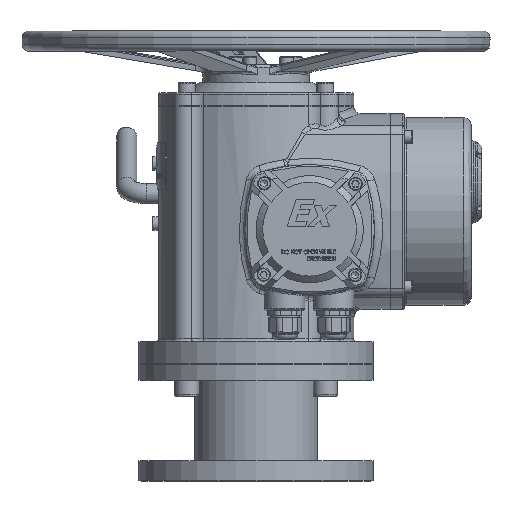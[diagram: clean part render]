
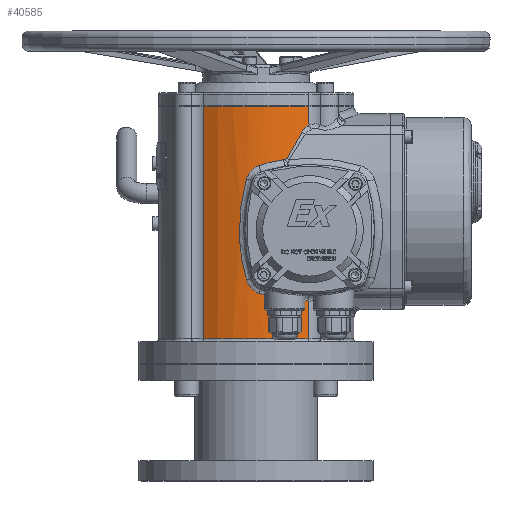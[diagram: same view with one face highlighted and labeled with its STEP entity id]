
A CAD part, top view. The second image highlights one B-rep face of the part: STEP entity #40585.
In plain terms, the highlighted cylindrical face has radius 73 mm (diameter 146 mm), a partial arc.
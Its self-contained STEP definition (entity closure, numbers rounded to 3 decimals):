
#815=B_SPLINE_CURVE_WITH_KNOTS('',3,(#62793,#62794,#62795,#62796,#62797),
 .UNSPECIFIED.,.F.,.F.,(4,1,4),(-4.223,-2.413,0.),
 .UNSPECIFIED.);
#816=B_SPLINE_CURVE_WITH_KNOTS('',3,(#62799,#62800,#62801,#62802,#62803),
 .UNSPECIFIED.,.F.,.F.,(4,1,4),(0.,0.615,1.436),
 .UNSPECIFIED.);
#817=B_SPLINE_CURVE_WITH_KNOTS('',3,(#62805,#62806,#62807,#62808,#62809,
#62810,#62811),.UNSPECIFIED.,.F.,.F.,(4,1,1,1,4),(-7.676,-5.483,
-3.29,-1.097,0.),
 .UNSPECIFIED.);
#818=B_SPLINE_CURVE_WITH_KNOTS('',3,(#62813,#62814,#62815,#62816,#62817),
 .UNSPECIFIED.,.F.,.F.,(4,1,4),(0.,0.615,1.436),
 .UNSPECIFIED.);
#819=B_SPLINE_CURVE_WITH_KNOTS('',3,(#62819,#62820,#62821,#62822),
 .UNSPECIFIED.,.F.,.F.,(4,4),(-2.043,0.),.UNSPECIFIED.);
#820=B_SPLINE_CURVE_WITH_KNOTS('',3,(#62824,#62825,#62826,#62827,#62828),
 .UNSPECIFIED.,.F.,.F.,(4,1,4),(-0.185,-0.092,0.),
 .UNSPECIFIED.);
#821=B_SPLINE_CURVE_WITH_KNOTS('',3,(#62830,#62831,#62832,#62833,#62834,
#62835),.UNSPECIFIED.,.F.,.F.,(4,1,1,4),(-0.141,-0.101,
-0.061,0.),.UNSPECIFIED.);
#822=B_SPLINE_CURVE_WITH_KNOTS('',3,(#62837,#62838,#62839,#62840),
 .UNSPECIFIED.,.F.,.F.,(4,4),(-2.338,0.),.UNSPECIFIED.);
#823=B_SPLINE_CURVE_WITH_KNOTS('',3,(#62842,#62843,#62844,#62845,#62846),
 .UNSPECIFIED.,.F.,.F.,(4,1,4),(-0.784,-0.336,0.),
 .UNSPECIFIED.);
#4641=FACE_OUTER_BOUND('',#6994,.T.);
#6994=EDGE_LOOP('',(#28944,#28945,#28946,#28947,#28948,#28949,#28950,#28951,
#28952,#28953,#28954,#28955,#28956,#28957));
#9426=LINE('',#62787,#12133);
#9427=LINE('',#62791,#12134);
#9428=LINE('',#62848,#12135);
#12133=VECTOR('',#48952,10.);
#12134=VECTOR('',#48957,10.);
#12135=VECTOR('',#48958,10.);
#14761=CIRCLE('',#43493,73.);
#14806=CIRCLE('',#43557,73.);
#16827=VERTEX_POINT('',#62636);
#16829=VERTEX_POINT('',#62642);
#16870=VERTEX_POINT('',#62786);
#16871=VERTEX_POINT('',#62790);
#16872=VERTEX_POINT('',#62792);
#16873=VERTEX_POINT('',#62798);
#16874=VERTEX_POINT('',#62804);
#16875=VERTEX_POINT('',#62812);
#16876=VERTEX_POINT('',#62818);
#16877=VERTEX_POINT('',#62823);
#16878=VERTEX_POINT('',#62829);
#16879=VERTEX_POINT('',#62836);
#16880=VERTEX_POINT('',#62841);
#16881=VERTEX_POINT('',#62847);
#21307=EDGE_CURVE('',#16827,#16829,#14761,.T.);
#21365=EDGE_CURVE('',#16829,#16870,#9426,.T.);
#21367=EDGE_CURVE('',#16827,#16871,#9427,.T.);
#21368=EDGE_CURVE('',#16872,#16871,#815,.T.);
#21369=EDGE_CURVE('',#16873,#16872,#816,.T.);
#21370=EDGE_CURVE('',#16874,#16873,#817,.T.);
#21371=EDGE_CURVE('',#16875,#16874,#818,.T.);
#21372=EDGE_CURVE('',#16876,#16875,#819,.T.);
#21373=EDGE_CURVE('',#16877,#16876,#820,.T.);
#21374=EDGE_CURVE('',#16878,#16877,#821,.T.);
#21375=EDGE_CURVE('',#16879,#16878,#822,.T.);
#21376=EDGE_CURVE('',#16880,#16879,#823,.T.);
#21377=EDGE_CURVE('',#16880,#16881,#9428,.T.);
#21378=EDGE_CURVE('',#16870,#16881,#14806,.T.);
#28944=ORIENTED_EDGE('',*,*,#21307,.F.);
#28945=ORIENTED_EDGE('',*,*,#21367,.T.);
#28946=ORIENTED_EDGE('',*,*,#21368,.F.);
#28947=ORIENTED_EDGE('',*,*,#21369,.F.);
#28948=ORIENTED_EDGE('',*,*,#21370,.F.);
#28949=ORIENTED_EDGE('',*,*,#21371,.F.);
#28950=ORIENTED_EDGE('',*,*,#21372,.F.);
#28951=ORIENTED_EDGE('',*,*,#21373,.F.);
#28952=ORIENTED_EDGE('',*,*,#21374,.F.);
#28953=ORIENTED_EDGE('',*,*,#21375,.F.);
#28954=ORIENTED_EDGE('',*,*,#21376,.F.);
#28955=ORIENTED_EDGE('',*,*,#21377,.T.);
#28956=ORIENTED_EDGE('',*,*,#21378,.F.);
#28957=ORIENTED_EDGE('',*,*,#21365,.F.);
#37440=CYLINDRICAL_SURFACE('',#43556,73.);
#40585=ADVANCED_FACE('',(#4641),#37440,.T.);
#43493=AXIS2_PLACEMENT_3D('',#62646,#48819,#48820);
#43556=AXIS2_PLACEMENT_3D('',#62789,#48955,#48956);
#43557=AXIS2_PLACEMENT_3D('',#62849,#48959,#48960);
#48819=DIRECTION('center_axis',(0.,-1.,0.));
#48820=DIRECTION('ref_axis',(0.,0.,
1.));
#48952=DIRECTION('',(0.,1.,0.));
#48955=DIRECTION('center_axis',(0.,1.,0.));
#48956=DIRECTION('ref_axis',(0.,0.,
1.));
#48957=DIRECTION('',(0.,1.,0.));
#48958=DIRECTION('',(0.,1.,0.));
#48959=DIRECTION('center_axis',(0.,1.,0.));
#48960=DIRECTION('ref_axis',(0.,0.,
-1.));
#62636=CARTESIAN_POINT('',(38.926,-95.05,61.756));
#62642=CARTESIAN_POINT('',(-38.926,-95.05,61.756));
#62646=CARTESIAN_POINT('Origin',(0.,-95.05,
0.));
#62786=CARTESIAN_POINT('',(-38.926,78.45,61.756));
#62787=CARTESIAN_POINT('',(-38.926,-79.05,61.756));
#62789=CARTESIAN_POINT('Origin',(0.,-79.05,
0.));
#62790=CARTESIAN_POINT('',(38.926,-66.921,61.756));
#62791=CARTESIAN_POINT('',(38.926,-79.05,61.756));
#62792=CARTESIAN_POINT('',(2.086,-61.088,72.97));
#62793=CARTESIAN_POINT('Ctrl Pts',(2.086,-61.088,72.97));
#62794=CARTESIAN_POINT('Ctrl Pts',(7.466,-62.91,72.816));
#62795=CARTESIAN_POINT('Ctrl Pts',(20.288,-66.167,71.048));
#62796=CARTESIAN_POINT('Ctrl Pts',(32.558,-67.007,65.77));
#62797=CARTESIAN_POINT('Ctrl Pts',(38.926,-66.921,61.756));
#62798=CARTESIAN_POINT('',(-7.054,-51.321,72.658));
#62799=CARTESIAN_POINT('Ctrl Pts',(-7.054,-51.321,
72.658));
#62800=CARTESIAN_POINT('Ctrl Pts',(-6.475,-53.276,
72.715));
#62801=CARTESIAN_POINT('Ctrl Pts',(-4.238,-57.535,
72.923));
#62802=CARTESIAN_POINT('Ctrl Pts',(-0.353,-60.261,
73.04));
#62803=CARTESIAN_POINT('Ctrl Pts',(2.086,-61.088,72.97));
#62804=CARTESIAN_POINT('',(-7.054,24.222,72.658));
#62805=CARTESIAN_POINT('Ctrl Pts',(-7.054,24.222,72.658));
#62806=CARTESIAN_POINT('Ctrl Pts',(-9.121,17.256,72.458));
#62807=CARTESIAN_POINT('Ctrl Pts',(-12.108,2.937,72.001));
#62808=CARTESIAN_POINT('Ctrl Pts',(-13.012,-19.06,
71.827));
#62809=CARTESIAN_POINT('Ctrl Pts',(-10.759,-37.246,72.23));
#62810=CARTESIAN_POINT('Ctrl Pts',(-8.088,-47.838,
72.558));
#62811=CARTESIAN_POINT('Ctrl Pts',(-7.054,-51.321,72.658));
#62812=CARTESIAN_POINT('',(2.086,33.988,72.97));
#62813=CARTESIAN_POINT('Ctrl Pts',(2.086,33.988,72.97));
#62814=CARTESIAN_POINT('Ctrl Pts',(0.256,33.368,73.022));
#62815=CARTESIAN_POINT('Ctrl Pts',(-3.735,30.973,72.967));
#62816=CARTESIAN_POINT('Ctrl Pts',(-6.281,26.828,72.733));
#62817=CARTESIAN_POINT('Ctrl Pts',(-7.054,24.222,72.658));
#62818=CARTESIAN_POINT('',(20.438,38.505,70.081));
#62819=CARTESIAN_POINT('Ctrl Pts',(20.438,38.505,70.081));
#62820=CARTESIAN_POINT('Ctrl Pts',(14.378,37.554,71.848));
#62821=CARTESIAN_POINT('Ctrl Pts',(8.16,36.045,72.797));
#62822=CARTESIAN_POINT('Ctrl Pts',(2.086,33.988,72.97));
#62823=CARTESIAN_POINT('',(22.035,38.978,69.595));
#62824=CARTESIAN_POINT('Ctrl Pts',(22.035,38.978,69.595));
#62825=CARTESIAN_POINT('Ctrl Pts',(21.776,38.874,69.677));
#62826=CARTESIAN_POINT('Ctrl Pts',(21.252,38.683,69.84));
#62827=CARTESIAN_POINT('Ctrl Pts',(20.712,38.548,70.001));
#62828=CARTESIAN_POINT('Ctrl Pts',(20.438,38.505,70.081));
#62829=CARTESIAN_POINT('',(23.102,39.693,69.248));
#62830=CARTESIAN_POINT('Ctrl Pts',(23.102,39.693,69.248));
#62831=CARTESIAN_POINT('Ctrl Pts',(23.036,39.581,69.27));
#62832=CARTESIAN_POINT('Ctrl Pts',(22.851,39.404,69.332));
#62833=CARTESIAN_POINT('Ctrl Pts',(22.485,39.172,69.451));
#62834=CARTESIAN_POINT('Ctrl Pts',(22.205,39.046,69.541));
#62835=CARTESIAN_POINT('Ctrl Pts',(22.035,38.978,69.595));
#62836=CARTESIAN_POINT('',(34.239,59.144,64.472));
#62837=CARTESIAN_POINT('Ctrl Pts',(34.239,59.144,64.472));
#62838=CARTESIAN_POINT('Ctrl Pts',(30.623,52.697,66.393));
#62839=CARTESIAN_POINT('Ctrl Pts',(26.9,46.205,67.981));
#62840=CARTESIAN_POINT('Ctrl Pts',(23.102,39.693,69.248));
#62841=CARTESIAN_POINT('',(38.926,64.354,61.756));
#62842=CARTESIAN_POINT('Ctrl Pts',(38.926,64.354,61.756));
#62843=CARTESIAN_POINT('Ctrl Pts',(37.922,63.565,62.389));
#62844=CARTESIAN_POINT('Ctrl Pts',(36.214,62.017,63.403));
#62845=CARTESIAN_POINT('Ctrl Pts',(34.759,60.071,64.196));
#62846=CARTESIAN_POINT('Ctrl Pts',(34.239,59.144,64.472));
#62847=CARTESIAN_POINT('',(38.926,78.45,61.756));
#62848=CARTESIAN_POINT('',(38.926,-79.05,61.756));
#62849=CARTESIAN_POINT('Origin',(0.,78.45,
0.));
